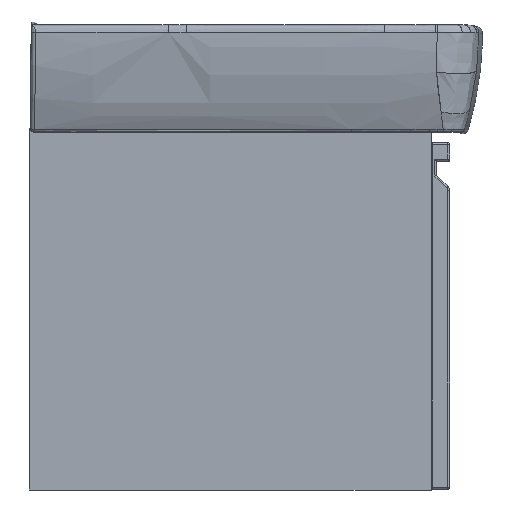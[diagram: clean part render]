
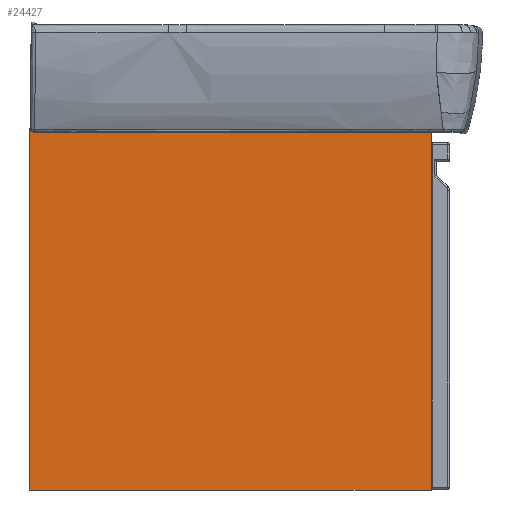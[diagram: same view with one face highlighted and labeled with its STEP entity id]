
A CAD part, left-side view. The second image highlights one B-rep face of the part: STEP entity #24427.
In plain terms, the highlighted planar face has unit normal (-1, 0, 0).
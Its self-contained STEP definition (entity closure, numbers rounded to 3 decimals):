
#2242=FACE_OUTER_BOUND('',#3410,.T.);
#3410=EDGE_LOOP('',(#20555,#20556,#20557,#20558));
#4520=LINE('',#81111,#6092);
#4524=LINE('',#81118,#6096);
#4527=LINE('',#81125,#6099);
#4529=LINE('',#81128,#6101);
#6092=VECTOR('',#28912,430.);
#6096=VECTOR('',#28918,387.);
#6099=VECTOR('',#28925,387.);
#6101=VECTOR('',#28929,430.);
#12293=VERTEX_POINT('',#81108);
#12294=VERTEX_POINT('',#81110);
#12296=VERTEX_POINT('',#81116);
#12298=VERTEX_POINT('',#81124);
#16173=EDGE_CURVE('',#12294,#12293,#4520,.T.);
#16177=EDGE_CURVE('',#12296,#12293,#4524,.T.);
#16180=EDGE_CURVE('',#12298,#12294,#4527,.T.);
#16182=EDGE_CURVE('',#12296,#12298,#4529,.T.);
#20555=ORIENTED_EDGE('',*,*,#16173,.T.);
#20556=ORIENTED_EDGE('',*,*,#16177,.F.);
#20557=ORIENTED_EDGE('',*,*,#16182,.T.);
#20558=ORIENTED_EDGE('',*,*,#16180,.T.);
#23445=PLANE('',#26792);
#24427=ADVANCED_FACE('',(#2242),#23445,.T.);
#26792=AXIS2_PLACEMENT_3D('',#81127,#28927,#28928);
#28912=DIRECTION('',(0.,1.,0.));
#28918=DIRECTION('',(0.,0.,1.));
#28925=DIRECTION('',(0.,0.,1.));
#28927=DIRECTION('center_axis',(-1.,0.,0.));
#28928=DIRECTION('ref_axis',(0.,0.,1.));
#28929=DIRECTION('',(0.,-1.,0.));
#81108=CARTESIAN_POINT('',(-6404.666,-1965.672,387.));
#81110=CARTESIAN_POINT('',(-6404.666,-2395.672,387.));
#81111=CARTESIAN_POINT('',(-6404.666,-2395.672,387.));
#81116=CARTESIAN_POINT('',(-6404.666,-1965.672,0.));
#81118=CARTESIAN_POINT('',(-6404.666,-1965.672,0.));
#81124=CARTESIAN_POINT('',(-6404.666,-2395.672,0.));
#81125=CARTESIAN_POINT('',(-6404.666,-2395.672,0.));
#81127=CARTESIAN_POINT('Origin',(-6404.666,-2395.672,0.));
#81128=CARTESIAN_POINT('',(-6404.666,-1965.672,0.));
